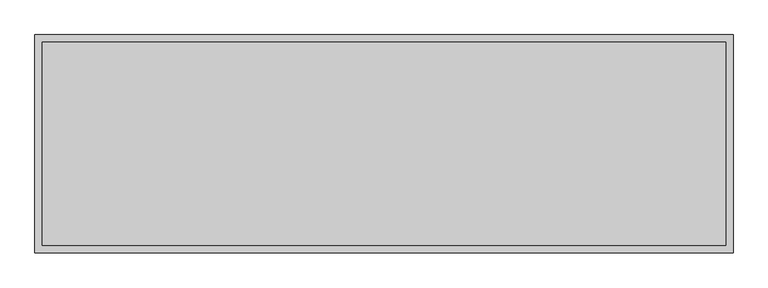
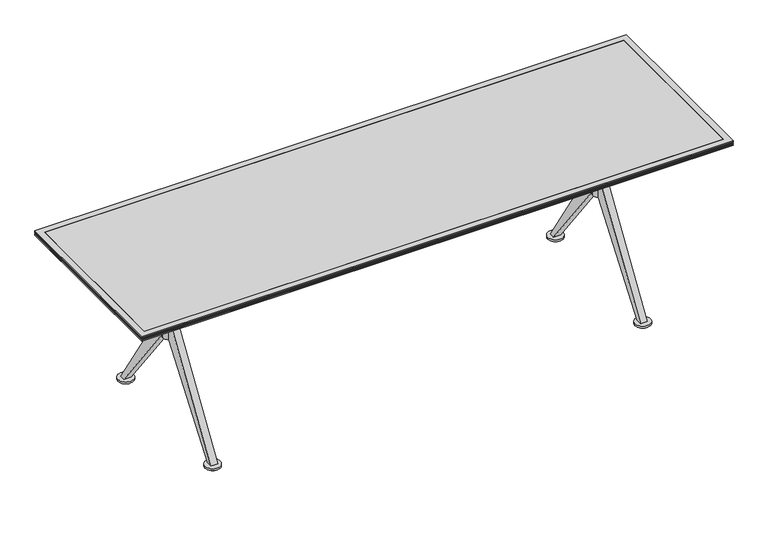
"""IFC4 building model written with IfcOpenShell, lengths in millimetres: furniture geometry, Coalesse_AM_Table_Conference_Ballet_Rectangular_XBase : Folding - 96L x 30W."""

from ifc_helpers import new_model, si_unit, point, frame, frame_2d, origin, origin_with_axes, place, context, project, spatial, polyline, circle_curve, trimmed, segment, composite_curve, outline, extrude, faceted_brep, source, transform, mapped, element, save
from ifc_brep_helpers import plane_surface, cylinder_surface, advanced_brep


def furniture_0d1399a9(model_context):
    return source(origin(), model_context, "Body", "SolidModel", [
        extrude(outline(composite_curve([segment(trimmed(circle_curve(frame_2d((-885.8365536, 310.3799254)), 25.4), [point((-911.2365536, 310.3799254))], [point((-860.4365536, 310.3799254))], False, "CARTESIAN"), True, "CONTINUOUS"), segment(trimmed(circle_curve(frame_2d((-885.8365536, 310.3799254)), 25.4), [point((-860.4365536, 310.3799254))], [point((-911.2365536, 310.3799254))], False, "CARTESIAN"), True, "CONTINUOUS")], self_intersect=False)), origin_with_axes(), (0.0, 0.0, 1.0), 4.5427804),
        extrude(outline(composite_curve([segment(trimmed(circle_curve(frame_2d((-886.4541541, -311.83186)), 25.4), [point((-911.8541541, -311.83186))], [point((-861.0541541, -311.83186))], False, "CARTESIAN"), True, "CONTINUOUS"), segment(trimmed(circle_curve(frame_2d((-886.4541541, -311.83186)), 25.4), [point((-861.0541541, -311.83186))], [point((-911.8541541, -311.83186))], False, "CARTESIAN"), True, "CONTINUOUS")], self_intersect=False)), origin_with_axes(), (0.0, 0.0, 1.0), 4.5427804),
        extrude(outline(composite_curve([segment(trimmed(circle_curve(frame_2d((885.8365536, 310.388)), 25.4), [point((860.4365536, 310.388))], [point((911.2365536, 310.388))], False, "CARTESIAN"), True, "CONTINUOUS"), segment(trimmed(circle_curve(frame_2d((885.8365536, 310.388)), 25.4), [point((911.2365536, 310.388))], [point((860.4365536, 310.388))], False, "CARTESIAN"), True, "CONTINUOUS")], self_intersect=False)), origin_with_axes(), (0.0, 0.0, 1.0), 4.5427804),
        extrude(outline(composite_curve([segment(trimmed(circle_curve(frame_2d((886.4541541, -311.83186)), 25.4), [point((861.0541541, -311.83186))], [point((911.8541541, -311.83186))], False, "CARTESIAN"), True, "CONTINUOUS"), segment(trimmed(circle_curve(frame_2d((886.4541541, -311.83186)), 25.4), [point((911.8541541, -311.83186))], [point((861.0541541, -311.83186))], False, "CARTESIAN"), True, "CONTINUOUS")], self_intersect=False)), origin_with_axes(), (0.0, 0.0, 1.0), 4.5427804),
        extrude(outline(composite_curve([segment(trimmed(circle_curve(frame_2d((-885.8365536, 310.3799254)), 31.7510292), [point((-917.5875828, 310.3799254))], [point((-854.0855244, 310.3799254))], False, "CARTESIAN"), True, "CONTINUOUS"), segment(trimmed(circle_curve(frame_2d((-885.8365536, 310.3799254)), 31.7510292), [point((-854.0855244, 310.3799254))], [point((-917.5875828, 310.3799254))], False, "CARTESIAN"), True, "CONTINUOUS")], self_intersect=False)), frame((0.0, 0.0, 4.5427804), z_axis=(0.0, 0.0, 1.0), x_axis=(1.0, 0.0, 0.0)), (0.0, 0.0, 1.0), 8.1572196),
        extrude(outline(composite_curve([segment(trimmed(circle_curve(frame_2d((-886.4541541, -311.83186)), 31.75), [point((-918.2041541, -311.83186))], [point((-854.7041541, -311.83186))], False, "CARTESIAN"), True, "CONTINUOUS"), segment(trimmed(circle_curve(frame_2d((-886.4541541, -311.83186)), 31.75), [point((-854.7041541, -311.83186))], [point((-918.2041541, -311.83186))], False, "CARTESIAN"), True, "CONTINUOUS")], self_intersect=False)), frame((0.0, 0.0, 4.5427804), z_axis=(0.0, 0.0, 1.0), x_axis=(1.0, 0.0, 0.0)), (0.0, 0.0, 1.0), 8.1572196),
        extrude(outline(composite_curve([segment(trimmed(circle_curve(frame_2d((885.8365536, 310.388)), 31.7510292), [point((854.0855244, 310.388))], [point((917.5875828, 310.388))], False, "CARTESIAN"), True, "CONTINUOUS"), segment(trimmed(circle_curve(frame_2d((885.8365536, 310.388)), 31.7510292), [point((917.5875828, 310.388))], [point((854.0855244, 310.388))], False, "CARTESIAN"), True, "CONTINUOUS")], self_intersect=False)), frame((0.0, 0.0, 4.5427804), z_axis=(0.0, 0.0, 1.0), x_axis=(1.0, 0.0, 0.0)), (0.0, 0.0, 1.0), 8.1572196),
        extrude(outline(composite_curve([segment(trimmed(circle_curve(frame_2d((886.4541541, -311.83186)), 31.75), [point((854.7041541, -311.83186))], [point((918.2041541, -311.83186))], False, "CARTESIAN"), True, "CONTINUOUS"), segment(trimmed(circle_curve(frame_2d((886.4541541, -311.83186)), 31.75), [point((918.2041541, -311.83186))], [point((854.7041541, -311.83186))], False, "CARTESIAN"), True, "CONTINUOUS")], self_intersect=False)), frame((0.0, 0.0, 4.5427804), z_axis=(0.0, 0.0, 1.0), x_axis=(1.0, 0.0, 0.0)), (0.0, 0.0, 1.0), 8.1572196),
        extrude(outline(polyline([(21.0343629, 381.0), (21.0343629, 482.7111245), (322.2625018, 12.7), (299.8750745, 12.7), (21.0343629, 381.0)])), frame((871.5375, 0.0, 0.0), z_axis=(1.0, 0.0, 0.0), x_axis=(0.0, 1.0, 0.0)), (0.0, 0.0, 1.0), 28.575),
        extrude(outline(polyline([(-21.0343629, 381.0), (-299.8750745, 12.7), (-322.2625018, 12.7), (-21.0343629, 482.7111245), (-21.0343629, 381.0)])), frame((871.5375, 0.0, 0.0), z_axis=(1.0, 0.0, 0.0), x_axis=(0.0, 1.0, 0.0)), (0.0, 0.0, 1.0), 28.575),
        extrude(outline(polyline([(21.0343629, 381.0), (21.0343629, 482.7111245), (322.2625018, 12.7), (299.8750745, 12.7), (21.0343629, 381.0)])), frame((-900.1125, 0.0, 0.0), z_axis=(1.0, 0.0, 0.0), x_axis=(0.0, 1.0, 0.0)), (0.0, 0.0, 1.0), 28.5877172),
        extrude(outline(polyline([(-21.0343629, 381.0), (-299.8750745, 12.7), (-322.2625018, 12.7), (-21.0343629, 482.7111245), (-21.0343629, 381.0)])), frame((-900.1125, 0.0, 0.0), z_axis=(1.0, 0.0, 0.0), x_axis=(0.0, 1.0, 0.0)), (0.0, 0.0, 1.0), 28.5877172),
        extrude(outline(polyline([(-21.0343629, 577.7388634), (-333.375, 698.5000242), (-305.990625, 698.5000242), (-21.0343629, 641.3500242), (-21.0343629, 577.7388634)])), frame((871.5375, 0.0, 0.0), z_axis=(1.0, 0.0, 0.0), x_axis=(0.0, 1.0, 0.0)), (0.0, 0.0, 1.0), 28.575),
        extrude(outline(polyline([(21.0343629, 577.7388634), (21.0343629, 641.3501773), (305.990625, 698.5000242), (333.375, 698.5000242), (21.0343629, 577.7388634)])), frame((871.5375, 0.0, 0.0), z_axis=(1.0, 0.0, 0.0), x_axis=(0.0, 1.0, 0.0)), (0.0, 0.0, 1.0), 28.575),
        extrude(outline(polyline([(-21.0343629, 577.7388634), (-333.375, 698.5000242), (-305.990625, 698.5000242), (-21.0343629, 641.3500242), (-21.0343629, 577.7388634)])), frame((-900.1125, 0.0, 0.0), z_axis=(1.0, 0.0, 0.0), x_axis=(0.0, 1.0, 0.0)), (0.0, 0.0, 1.0), 28.5877172),
        extrude(outline(polyline([(21.0343629, 577.7388634), (21.0343629, 641.3501773), (305.990625, 698.5000242), (333.375, 698.5000242), (21.0343629, 577.7388634)])), frame((-900.1125, 0.0, 0.0), z_axis=(1.0, 0.0, 0.0), x_axis=(0.0, 1.0, 0.0)), (0.0, 0.0, 1.0), 28.5877172),
        advanced_brep(
        [(864.4154775, 12.6999879, 492.1250121), (-864.4154775, 12.6999879, 492.1250121), (-864.4154775, 12.6999879, 568.3250121), (864.4154775, 12.6999879, 568.3250121), (-861.0125298, 0.0, 568.3250121), (-864.4154775, -12.6999879, 568.3250121), (864.4154775, -12.6999879, 568.3250121), (861.0125298, 0.0, 568.3250121), (-864.4154775, -12.6999879, 492.1250121), (864.4154775, -12.6999879, 492.1250121), (861.0125298, 0.0, 492.1250121), (-861.0125298, 0.0, 492.1250121), (-911.8125298, 0.0, 641.3500242), (-861.0125298, 0.0, 641.3500242), (861.0125298, 0.0, 641.3500242), (911.8125298, 0.0, 641.3500242), (-911.8125298, 0.0, 381.0), (-861.0125298, 0.0, 381.0), (861.0125298, 0.0, 381.0), (911.8125298, 0.0, 381.0)],
        [
            (0, 1),
            (1, 2),
            (2, 3),
            (3, 0),
            (2, 4, circle_curve(frame((-886.4125298, 0.0, 568.3250121), z_axis=(0.0, 0.0, -1.0), x_axis=(1.0, 0.0, 0.0)), 25.4)),
            (4, 5, circle_curve(frame((-886.4125298, 0.0, 568.3250121), z_axis=(0.0, 0.0, -1.0), x_axis=(1.0, 0.0, 0.0)), 25.4)),
            (5, 6),
            (6, 7, circle_curve(frame((886.4125298, 0.0, 568.3250121), z_axis=(0.0, 0.0, -1.0), x_axis=(1.0, 0.0, 0.0)), 25.4)),
            (7, 3, circle_curve(frame((886.4125298, 0.0, 568.3250121), z_axis=(0.0, 0.0, -1.0), x_axis=(1.0, 0.0, 0.0)), 25.4)),
            (5, 8),
            (8, 9),
            (9, 6),
            (0, 10, circle_curve(frame((886.4125298, 0.0, 492.1250121), z_axis=(0.0, 0.0, 1.0), x_axis=(1.0, 0.0, 0.0)), 25.4)),
            (10, 9, circle_curve(frame((886.4125298, 0.0, 492.1250121), z_axis=(0.0, 0.0, 1.0), x_axis=(1.0, 0.0, 0.0)), 25.4)),
            (8, 11, circle_curve(frame((-886.4125298, 0.0, 492.1250121), z_axis=(0.0, 0.0, 1.0), x_axis=(1.0, 0.0, 0.0)), 25.4)),
            (11, 1, circle_curve(frame((-886.4125298, 0.0, 492.1250121), z_axis=(0.0, 0.0, 1.0), x_axis=(1.0, 0.0, 0.0)), 25.4)),
            (12, 13, circle_curve(frame((-886.4125298, 0.0, 641.3500242), z_axis=(0.0, 0.0, 1.0), x_axis=(1.0, 0.0, 0.0)), 25.4)),
            (13, 12, circle_curve(frame((-886.4125298, 0.0, 641.3500242), z_axis=(0.0, 0.0, 1.0), x_axis=(1.0, 0.0, 0.0)), 25.4)),
            (14, 15, circle_curve(frame((886.4125298, 0.0, 641.3500242), z_axis=(0.0, 0.0, 1.0), x_axis=(1.0, 0.0, 0.0)), 25.4)),
            (15, 14, circle_curve(frame((886.4125298, 0.0, 641.3500242), z_axis=(0.0, 0.0, 1.0), x_axis=(1.0, 0.0, 0.0)), 25.4)),
            (16, 17, circle_curve(frame((-886.4125298, 0.0, 381.0), z_axis=(0.0, 0.0, -1.0), x_axis=(1.0, 0.0, 0.0)), 25.4)),
            (17, 16, circle_curve(frame((-886.4125298, 0.0, 381.0), z_axis=(0.0, 0.0, -1.0), x_axis=(1.0, 0.0, 0.0)), 25.4)),
            (18, 19, circle_curve(frame((886.4125298, 0.0, 381.0), z_axis=(0.0, 0.0, -1.0), x_axis=(1.0, 0.0, 0.0)), 25.4)),
            (19, 18, circle_curve(frame((886.4125298, 0.0, 381.0), z_axis=(0.0, 0.0, -1.0), x_axis=(1.0, 0.0, 0.0)), 25.4)),
            (12, 16),
            (17, 11),
            (4, 13),
            (14, 7),
            (10, 18),
            (19, 15),
        ],
        [
            plane_surface(frame((871.5375, 12.6999879, 492.1250121), z_axis=(0.0, 1.0, 0.0), x_axis=(-1.0, 0.0, 0.0))),
            plane_surface(frame((871.5375, 12.6999879, 568.3250121), z_axis=(0.0, 0.0, 1.0), x_axis=(-1.0, 0.0, 0.0))),
            plane_surface(frame((871.5375, -12.6999879, 568.3250121), z_axis=(0.0, -1.0, 0.0), x_axis=(-1.0, 0.0, 0.0))),
            plane_surface(frame((871.5375, -12.6999879, 492.1250121), z_axis=(0.0, 0.0, -1.0), x_axis=(-1.0, 0.0, 0.0))),
            plane_surface(frame((-861.0125298, 0.0, 641.3500242), z_axis=(0.0, 0.0, 1.0), x_axis=(0.0, 1.0, 0.0))),
            plane_surface(frame((-861.0125298, 0.0, 381.0), z_axis=(0.0, 0.0, -1.0), x_axis=(0.0, -1.0, 0.0))),
            cylinder_surface(frame((-886.4125298, 0.0, 381.0), z_axis=(0.0, 0.0, 1.0), x_axis=(1.0, 0.0, 0.0)), 25.4),
            cylinder_surface(frame((886.4125298, 0.0, 0.0), z_axis=(0.0, 0.0, 1.0), x_axis=(1.0, 0.0, 0.0)), 25.4),
        ],
        [
            (0, [[1, 2, 3, 4]]),
            (1, [[-3, 5, 6, 7, 8, 9]]),
            (2, [[-7, 10, 11, 12]]),
            (3, [[-1, 13, 14, -11, 15, 16]]),
            (4, [[17, 18]]),
            (4, [[19, 20]]),
            (5, [[21, 22]]),
            (5, [[23, 24]]),
            (6, [[-17, 25, -22, 26, -15, -10, -6, 27]]),
            (6, [[-18, -27, -5, -2, -16, -26, -21, -25]]),
            (7, [[-19, 28, -8, -12, -14, 29, -24, 30]]),
            (7, [[-20, -30, -23, -29, -13, -4, -9, -28]]),
        ],
    ),
        faceted_brep([(-1219.2003633, 381.0, 704.85), (-1193.8003876, 355.6000242, 698.5000242), (-1193.8003876, -355.5999516, 698.5000242), (-1219.2003633, -380.9999273, 704.85), (-1219.2003633, 381.0, 708.0250242), (-1219.2003633, -380.9999273, 708.0250242), (-1216.0253755, 377.8250121, 709.6125), (-1216.0253755, -377.8249394, 709.6125), (-1219.2003633, 381.0, 711.1999758), (-1219.2003633, -380.9999273, 711.1999758), (-1216.0253755, 377.8250121, 712.7875242), (-1216.0253755, -377.8249394, 712.7875242), (-1219.2003633, 381.0, 714.375), (-1219.2003633, -380.9999273, 714.375), (-1216.0253755, 377.8250121, 715.9624758), (-1216.0253755, -377.8249394, 715.9624758), (-1219.2003633, 381.0, 717.5500242), (-1219.2003633, -380.9999273, 717.5500242), (-1216.0253755, 377.8250121, 719.1375), (-1216.0253755, -377.8249394, 719.1375), (-1219.2003633, 381.0, 720.7249758), (-1219.2003633, -380.9999273, 720.7249758), (-1219.2003633, 381.0, 723.9), (-1219.2003633, -380.9999273, 723.9), (-1193.8003876, 355.6000242, 723.9), (-1193.8003876, -355.5999516, 723.9), (1193.8, -355.5999516, 698.5000242), (1219.1999758, -380.9999273, 704.85), (1219.1999758, -380.9999273, 708.0250242), (1216.0249879, -377.8249394, 709.6125), (1219.1999758, -380.9999273, 711.1999758), (1216.0249879, -377.8249394, 712.7875242), (1219.1999758, -380.9999273, 714.375), (1216.0249879, -377.8249394, 715.9624758), (1219.1999758, -380.9999273, 717.5500242), (1216.0249879, -377.8249394, 719.1375), (1219.1999758, -380.9999273, 720.7249758), (1219.1999758, -380.9999273, 723.9), (1193.8, -355.5999516, 723.9), (1193.8, 355.6000242, 698.5000242), (1219.1999758, 381.0, 704.85), (1219.1999758, 381.0, 708.0250242), (1216.0249879, 377.8250121, 709.6125), (1219.1999758, 381.0, 711.1999758), (1216.0249879, 377.8250121, 712.7875242), (1219.1999758, 381.0, 714.375), (1216.0249879, 377.8250121, 715.9624758), (1219.1999758, 381.0, 717.5500242), (1216.0249879, 377.8250121, 719.1375), (1219.1999758, 381.0, 720.7249758), (1219.1999758, 381.0, 723.9), (1193.8, 355.6000242, 723.9)], [[[0, 1, 2, 3]], [[4, 0, 3, 5]], [[6, 4, 5, 7]], [[8, 6, 7, 9]], [[10, 8, 9, 11]], [[12, 10, 11, 13]], [[14, 12, 13, 15]], [[16, 14, 15, 17]], [[18, 16, 17, 19]], [[20, 18, 19, 21]], [[22, 20, 21, 23]], [[1, 24, 25, 2]], [[3, 2, 26, 27]], [[5, 3, 27, 28]], [[7, 5, 28, 29]], [[9, 7, 29, 30]], [[11, 9, 30, 31]], [[13, 11, 31, 32]], [[15, 13, 32, 33]], [[17, 15, 33, 34]], [[19, 17, 34, 35]], [[21, 19, 35, 36]], [[23, 21, 36, 37]], [[2, 25, 38, 26]], [[27, 26, 39, 40]], [[28, 27, 40, 41]], [[29, 28, 41, 42]], [[30, 29, 42, 43]], [[31, 30, 43, 44]], [[32, 31, 44, 45]], [[33, 32, 45, 46]], [[34, 33, 46, 47]], [[35, 34, 47, 48]], [[36, 35, 48, 49]], [[37, 36, 49, 50]], [[26, 38, 51, 39]], [[40, 39, 1, 0]], [[41, 40, 0, 4]], [[42, 41, 4, 6]], [[43, 42, 6, 8]], [[44, 43, 8, 10]], [[45, 44, 10, 12]], [[46, 45, 12, 14]], [[47, 46, 14, 16]], [[48, 47, 16, 18]], [[49, 48, 18, 20]], [[50, 49, 20, 22]], [[23, 37, 50, 22], [24, 51, 38, 25]], [[39, 51, 24, 1]]]),
        extrude(outline(polyline([(1193.8, 355.6000242), (1193.8, -355.5999516), (-1193.8003876, -355.5999516), (-1193.8003876, 355.6000242), (1193.8, 355.6000242)])), frame((0.0, 0.0, 704.85), z_axis=(0.0, 0.0, 1.0), x_axis=(1.0, 0.0, 0.0)), (0.0, 0.0, 1.0), 19.05),
    ])


if __name__ == "__main__":
    model = new_model("IFC4")
    model_context = context("Model", 3, world=origin())
    ifc_project = project(units=[si_unit("LENGTHUNIT", "METRE", prefix="MILLI")], contexts=[model_context])
    site = spatial("IfcSite", under=ifc_project)
    building = spatial("IfcBuilding", under=site)
    placement = place(None, origin())
    furniture_shape = furniture_0d1399a9(model_context)
    element("IfcFurniture", 1, ObjectType="Coalesse_AM_Table_Conference_Ballet_Rectangular_XBase : Folding - 96L x 30W", at=placement, inside=building, context=model_context, shape_type="MappedRepresentation", body=[
        mapped(furniture_shape, transform((0.0, 0.0, 0.0), x_axis=(1.0, 0.0, 0.0), y_axis=(0.0, 1.0, 0.0), z_axis=(0.0, 0.0, 1.0))),
    ])
    save(model, "model.ifc")
